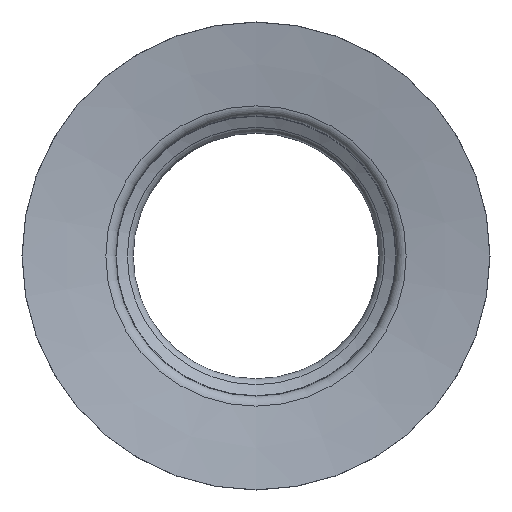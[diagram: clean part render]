
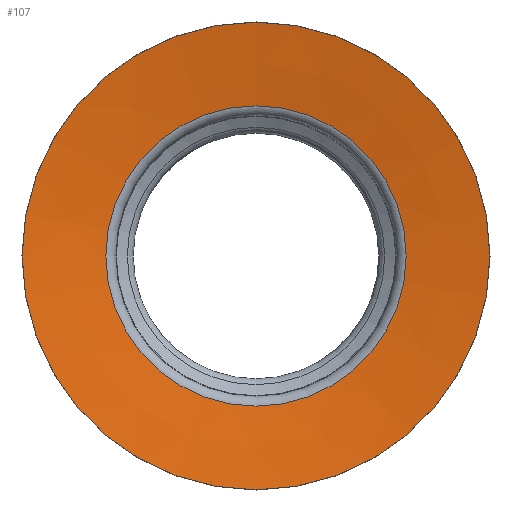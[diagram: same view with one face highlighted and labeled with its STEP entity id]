
A CAD part, front view. The second image highlights one B-rep face of the part: STEP entity #107.
In plain terms, the highlighted conical face has half-angle 81 degrees and reference radius 12.84 mm.
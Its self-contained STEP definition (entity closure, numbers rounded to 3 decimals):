
#107=ADVANCED_FACE('',(#252,#253),#254,.F.);
#252=FACE_BOUND('',#497,.T.);
#253=FACE_OUTER_BOUND('',#498,.T.);
#254=CONICAL_SURFACE('',#499,12.84,1.414);
#497=EDGE_LOOP('',(#854));
#498=EDGE_LOOP('',(#855));
#499=AXIS2_PLACEMENT_3D('',#856,#857,#858);
#854=ORIENTED_EDGE('',*,*,#1282,.F.);
#855=ORIENTED_EDGE('',*,*,#1283,.T.);
#856=CARTESIAN_POINT('',(0.0,1.134,0.0));
#857=DIRECTION('',(0.0,-1.0,-0.0));
#858=DIRECTION('',(0.0,0.0,-1.0));
#1282=EDGE_CURVE('',#1488,#1488,#1489,.T.);
#1283=EDGE_CURVE('',#1490,#1490,#1491,.T.);
#1488=VERTEX_POINT('',#1776);
#1489=CIRCLE('',#1777,12.84);
#1490=VERTEX_POINT('',#1778);
#1491=CIRCLE('',#1779,20.0);
#1776=CARTESIAN_POINT('',(0.0,1.134,-12.84));
#1777=AXIS2_PLACEMENT_3D('',#2059,#2060,#2061);
#1778=CARTESIAN_POINT('',(0.0,0.,-20.0));
#1779=AXIS2_PLACEMENT_3D('',#2062,#2063,#2064);
#2059=CARTESIAN_POINT('',(0.0,1.134,0.0));
#2060=DIRECTION('',(0.0,-1.0,0.0));
#2061=DIRECTION('',(0.0,0.0,-1.0));
#2062=CARTESIAN_POINT('',(0.0,0.,0.0));
#2063=DIRECTION('',(0.0,-1.0,0.0));
#2064=DIRECTION('',(0.0,0.0,-1.0));
